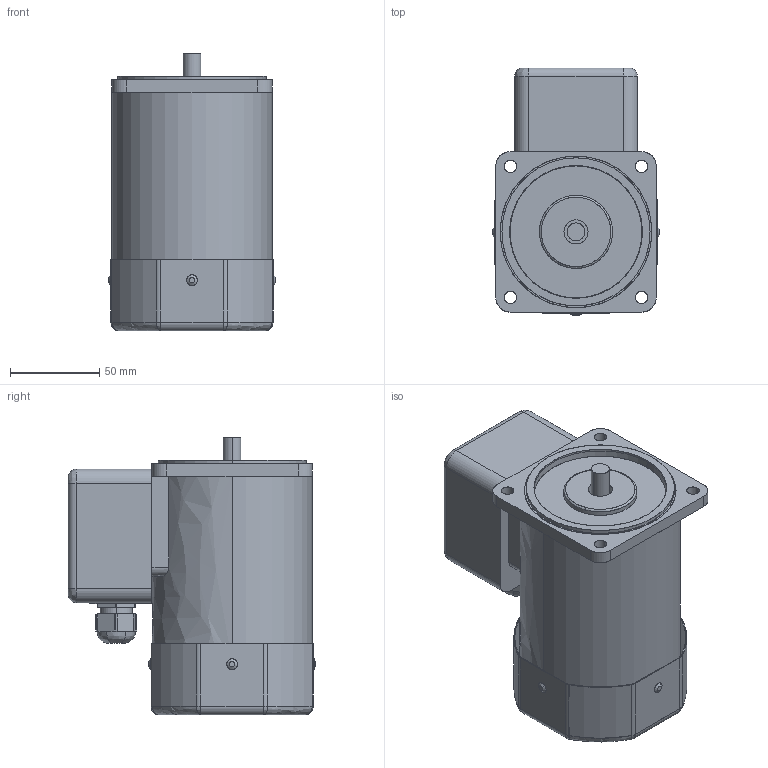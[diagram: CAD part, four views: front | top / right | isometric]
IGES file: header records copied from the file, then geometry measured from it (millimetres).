
Start section: SolidWorks IGES file using analytic representation for surfaces
Bounding box: 94 x 139 x 156 mm (x, y, z)
Surface area: 160977.6 mm2 (no closed solid volume)
Topology: 0 solids, 0 shells, 304 faces, 4808 edges, 4792 vertices
Faces by surface type: bspline 168, revolution 136
